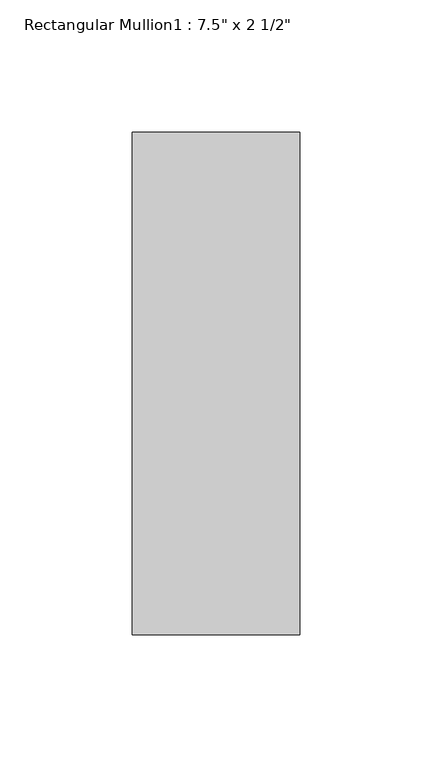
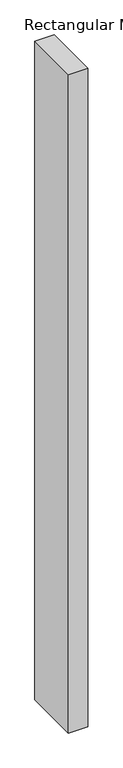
"""IFC4 building model written with IfcOpenShell, lengths in millimetres: member geometry."""

import ifcopenshell
import ifcopenshell.guid

model = None  # the IFC model being written
_history = None  # IfcOwnerHistory: only IFC2X3 demands one
_inside = {}  # id of a spatial element -> (the spatial element, [elements in it])
_under = {}  # id of a project, library or spatial element -> (it, [spatial elements below it])
_declared = {}  # id of a project -> (the project, [libraries it declares])
_typed = {}  # id of a type object -> (the type object, [elements of that type])
_made_of = {}  # id of a material, layer set ... -> (it, [elements and type objects made of it])


def new_model(schema):
    """Start an empty IFC model of exactly this schema.

    Asked for "IFC4X3", IfcOpenShell would pick the latest addendum, in which some entities
    have other attributes; the version numbers below select the first issue.
    IFC2X3 requires an IfcOwnerHistory on every rooted entity: one is made here for all.
    """
    global model, _history
    if schema == "IFC4X3":
        model = ifcopenshell.file(schema_version=(4, 3, 0, 0))
    else:
        model = ifcopenshell.file(schema=schema)
    _inside.clear()
    _under.clear()
    _declared.clear()
    _typed.clear()
    _made_of.clear()
    _history = None
    if model.schema == "IFC2X3":
        org = make("IfcOrganization", Name="unknown")
        user = make(
            "IfcPersonAndOrganization",
            ThePerson=make("IfcPerson", FamilyName="unknown"),
            TheOrganization=org,
        )
        app = make(
            "IfcApplication",
            ApplicationDeveloper=org,
            Version="unknown",
            ApplicationFullName="unknown",
            ApplicationIdentifier="unknown",
        )
        _history = make(
            "IfcOwnerHistory",
            OwningUser=user,
            OwningApplication=app,
            ChangeAction="ADDED",
            CreationDate=0,
        )
    return model


def make(cls, **values):
    """One entity of the class cls with the attributes given. An attribute that is None is left unset."""
    return model.create_entity(
        cls, **{name: value for name, value in values.items() if value is not None}
    )


def rooted(cls, **values):
    """An entity with a GlobalId (a new one), such as an element, a storey or a relation."""
    return make(cls, GlobalId=ifcopenshell.guid.new(), OwnerHistory=_history, **values)


def si_unit(unit_type, name, prefix=None):
    """IfcSIUnit, for example si_unit("LENGTHUNIT", "METRE", prefix="MILLI")."""
    return make("IfcSIUnit", UnitType=unit_type, Prefix=prefix, Name=name)


def assignment(units):
    """IfcUnitAssignment: the units of a project."""
    return None if units is None else make("IfcUnitAssignment", Units=units)


def point(xyz):
    """IfcCartesianPoint."""
    return None if xyz is None else make("IfcCartesianPoint", Coordinates=xyz)


def direction(xyz):
    """IfcDirection."""
    return None if xyz is None else make("IfcDirection", DirectionRatios=xyz)


def frame(location, z_axis=None, x_axis=None):
    """IfcAxis2Placement3D, a coordinate frame: its origin and axes. An axis left out is left unset."""
    return make(
        "IfcAxis2Placement3D",
        Location=point(location),
        Axis=direction(z_axis),
        RefDirection=direction(x_axis),
    )


def origin():
    """The frame at (0, 0, 0) with its axes left unset."""
    return frame((0.0, 0.0, 0.0))


def place(relative_to, where):
    """IfcLocalPlacement: puts the frame where relative to a parent placement (None: the world)."""
    return make(
        "IfcLocalPlacement", PlacementRelTo=relative_to, RelativePlacement=where
    )


def context(
    kind, dimensions, precision=None, world=None, true_north=None, identifier=None
):
    """IfcGeometricRepresentationContext, for example the 3D "Model" context."""
    return make(
        "IfcGeometricRepresentationContext",
        ContextIdentifier=identifier,
        ContextType=kind,
        CoordinateSpaceDimension=dimensions,
        Precision=precision,
        WorldCoordinateSystem=world,
        TrueNorth=true_north,
    )


def project(units=None, contexts=None):
    """IfcProject with its units and contexts."""
    return rooted(
        "IfcProject",
        Name="project",
        RepresentationContexts=contexts,
        UnitsInContext=assignment(units),
    )


def spatial(cls, under=None, at=None, **own):
    """A site, building, storey or space (cls), placed at a placement, below another one or the project."""
    s = rooted(cls, ObjectPlacement=at, **own)
    if under is not None:
        _under.setdefault(under.id(), (under, []))[1].append(s)
    return s


def polyline(points):
    """IfcPolyline through the points."""
    return make("IfcPolyline", Points=[point(p) for p in points])


def outline(outer, holes=None, kind="AREA"):
    """IfcArbitraryClosedProfileDef: a profile drawn as a closed curve; with holes, ...WithVoids."""
    if holes is None:
        return make("IfcArbitraryClosedProfileDef", ProfileType=kind, OuterCurve=outer)
    return make(
        "IfcArbitraryProfileDefWithVoids",
        ProfileType=kind,
        OuterCurve=outer,
        InnerCurves=holes,
    )


def extrude(swept, where, along, depth):
    """IfcExtrudedAreaSolid: the profile swept, set in the frame where, extruded along a direction by depth."""
    return make(
        "IfcExtrudedAreaSolid",
        SweptArea=swept,
        Position=where,
        ExtrudedDirection=direction(along),
        Depth=depth,
    )


def shape(context_of_items, identifier, shape_type, items):
    """IfcShapeRepresentation: the items that make up one representation, for example the "Body"."""
    return make(
        "IfcShapeRepresentation",
        ContextOfItems=context_of_items,
        RepresentationIdentifier=identifier,
        RepresentationType=shape_type,
        Items=items,
    )


def source(mapping_origin, context_of_items, identifier, shape_type, items):
    """IfcRepresentationMap: a shape defined once, which mapped items show again and again."""
    return make(
        "IfcRepresentationMap",
        MappingOrigin=mapping_origin,
        MappedRepresentation=shape(context_of_items, identifier, shape_type, items),
    )


def transform(
    local_origin,
    x_axis=None,
    y_axis=None,
    z_axis=None,
    scale=None,
    scale2=None,
    scale3=None,
    uniform=True,
):
    """IfcCartesianTransformationOperator3D, or its non-uniform kind. x_axis, y_axis, z_axis: its Axis1, 2, 3."""
    if uniform:
        return make(
            "IfcCartesianTransformationOperator3D",
            Axis1=direction(x_axis),
            Axis2=direction(y_axis),
            LocalOrigin=point(local_origin),
            Scale=scale,
            Axis3=direction(z_axis),
        )
    return make(
        "IfcCartesianTransformationOperator3DnonUniform",
        Axis1=direction(x_axis),
        Axis2=direction(y_axis),
        LocalOrigin=point(local_origin),
        Scale=scale,
        Axis3=direction(z_axis),
        Scale2=scale2,
        Scale3=scale3,
    )


def mapped(mapping_source, mapping_target):
    """IfcMappedItem: shows the shape of a source again, moved by a transform."""
    return make(
        "IfcMappedItem", MappingSource=mapping_source, MappingTarget=mapping_target
    )


def made_of(thing, what):
    """Note that an element or type object is made of a material, layer set ...; save() writes the relation."""
    if what is not None:
        _made_of.setdefault(what.id(), (what, []))[1].append(thing)
    return thing


def element(
    cls,
    number,
    at=None,
    inside=None,
    cuts=None,
    type_object=None,
    material=None,
    context=None,
    identifier="Body",
    shape_type=None,
    held_by="IfcProductDefinitionShape",
    body=None,
    shapes=None,
    **own,
):
    """One element of the class cls, such as IfcWall. Its Tag is "e" and its number.

    at: its placement. inside: the storey or other place that contains it. cuts: it is an
    opening in that element (IfcRelVoidsElement). A single representation is given by context,
    identifier, shape_type and body (its items); several are given by shapes. held_by: the class
    of the entity that holds the representations. save() writes the other relations.
    """
    e = rooted(cls, Tag="e%d" % number, ObjectPlacement=at, **own)
    if body is not None:
        shapes = [shape(context, identifier, shape_type, body)]
    if shapes is not None:
        e.Representation = make(held_by, Representations=shapes)
    if inside is not None:
        _inside.setdefault(inside.id(), (inside, []))[1].append(e)
    if cuts is not None:
        rooted(
            "IfcRelVoidsElement", RelatingBuildingElement=cuts, RelatedOpeningElement=e
        )
    if type_object is not None:
        _typed.setdefault(type_object.id(), (type_object, []))[1].append(e)
    return made_of(e, material)


def aggregate(whole, parts):
    """IfcRelAggregates: a whole, such as a stair, and the parts it consists of."""
    return rooted("IfcRelAggregates", RelatingObject=whole, RelatedObjects=parts)


def save(model, path):
    """Write the relations noted so far, then the file.

    IfcRelAggregates (storeys below a building ...), IfcRelContainedInSpatialStructure (elements
    in a storey), IfcRelDefinesByType, IfcRelAssociatesMaterial and IfcRelDeclares: one each for
    every whole, place, type object, material and project.
    """
    for whole, parts in _under.values():
        aggregate(whole, parts)
    for where, things in _inside.values():
        rooted(
            "IfcRelContainedInSpatialStructure",
            RelatedElements=things,
            RelatingStructure=where,
        )
    for kind, things in _typed.values():
        rooted("IfcRelDefinesByType", RelatedObjects=things, RelatingType=kind)
    for what, things in _made_of.values():
        rooted("IfcRelAssociatesMaterial", RelatedObjects=things, RelatingMaterial=what)
    for by, libraries in _declared.values():
        rooted("IfcRelDeclares", RelatingContext=by, RelatedDefinitions=libraries)
    model.write(path)


def member_635fbdc0(model_context):
    return source(origin(), model_context, "Body", "SweptSolid", [
        extrude(outline(polyline([(0.0, 165.1), (0.0, -25.4), (-63.5, -25.4), (-63.5, 165.1), (0.0, 165.1)])), frame((0.0, 0.0, -2286.0), z_axis=(0.0, 0.0, 1.0), x_axis=(1.0, 0.0, 0.0)), (0.0, 0.0, 1.0), 2286.0),
    ])


if __name__ == "__main__":
    model = new_model("IFC4")
    model_context = context("Model", 3, world=origin())
    ifc_project = project(units=[si_unit("LENGTHUNIT", "METRE", prefix="MILLI")], contexts=[model_context])
    site = spatial("IfcSite", under=ifc_project)
    building = spatial("IfcBuilding", under=site)
    placement = place(None, origin())
    member_shape = member_635fbdc0(model_context)
    element("IfcMember", 1, ObjectType="Rectangular Mullion1 : 7.5\" x 2 1/2\"", at=placement, inside=building, context=model_context, shape_type="MappedRepresentation", body=[
        mapped(member_shape, transform((0.0, 0.0, 0.0), x_axis=(1.0, 0.0, 0.0), y_axis=(0.0, 1.0, 0.0), z_axis=(0.0, 0.0, 1.0))),
    ])
    save(model, "model.ifc")
